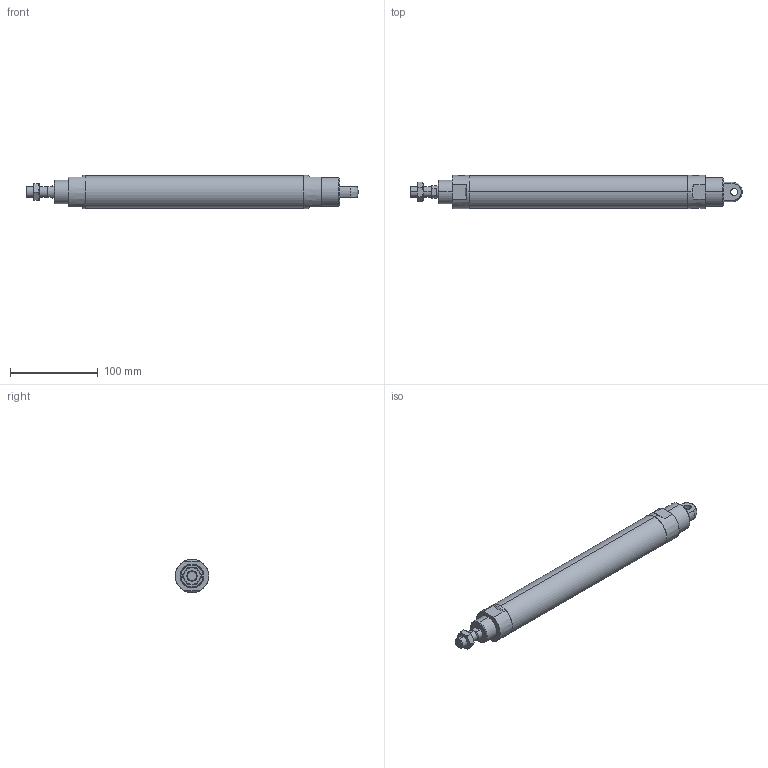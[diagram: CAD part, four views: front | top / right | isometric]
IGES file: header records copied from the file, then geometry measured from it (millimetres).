
Start section: SolidWorks IGES file using analytic representation for surfaces
Global section: file name: C:\Users\Toshiba\Desktop\J#2-32-200-C.IGS; native system: SolidWorks 2014; preprocessor: SolidWorks 2014; author: Toshiba; date: 160308.154243; units: millimetre
Bounding box: 379 x 38 x 38 mm (x, y, z)
Surface area: 44695.8 mm2 (no closed solid volume)
Topology: 0 solids, 0 shells, 81 faces, 1552 edges, 1548 vertices
Faces by surface type: bspline 42, revolution 39
